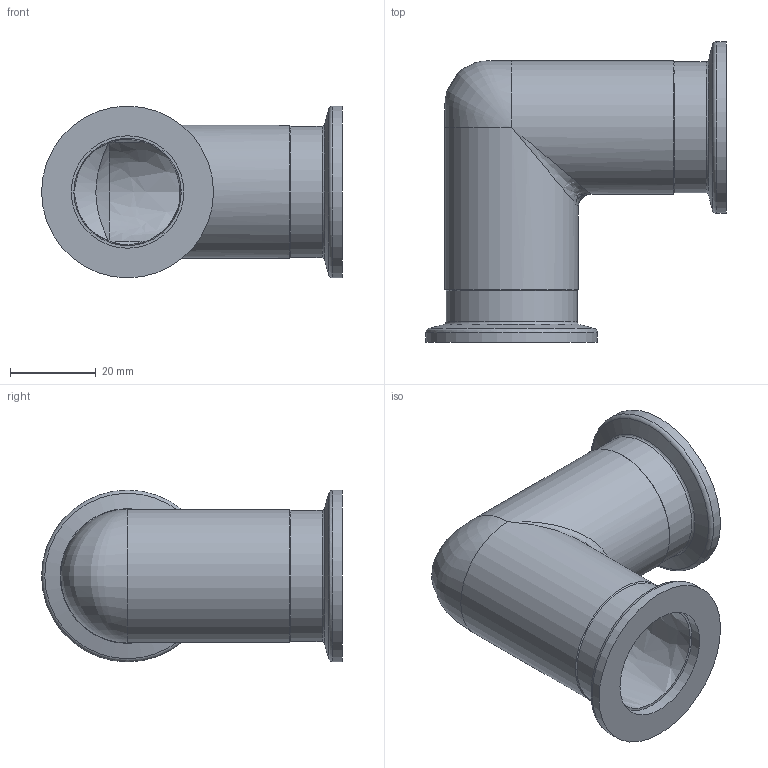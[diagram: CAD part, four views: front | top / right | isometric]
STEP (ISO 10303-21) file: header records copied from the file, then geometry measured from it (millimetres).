
FILE_DESCRIPTION((''),'2;1');
FILE_NAME('W:\M18437.stp','2006-08-30T11:35:19',('KAA'),(''),'Autodesk Inventor 10','Autodesk Inventor 10','');
FILE_SCHEMA(('CONFIG_CONTROL_DESIGN'));
Length unit declared in the file: millimetre
Products named in the file (1): M211-253
Bounding box: 70 x 70 x 40 mm (x, y, z)
Volume: 29386.4 mm3; surface area: 19810.2 mm2
Topology: 1 solids, 1 shells, 34 faces, 70 edges, 36 vertices
Faces by surface type: bspline 16, cylinder 8, cone 4, plane 4, torus 2
Full cylindrical faces by diameter (mm): 26.2 x2, 30.5 x2, 31 x2, 40 x2
Entity records: 1648 total; most frequent: CARTESIAN_POINT 1001, DIRECTION 116, ORIENTED_EDGE 88, AXIS2_PLACEMENT_3D 58, EDGE_LOOP 56, EDGE_CURVE 44, FACE_OUTER_BOUND 34, ADVANCED_FACE 34
